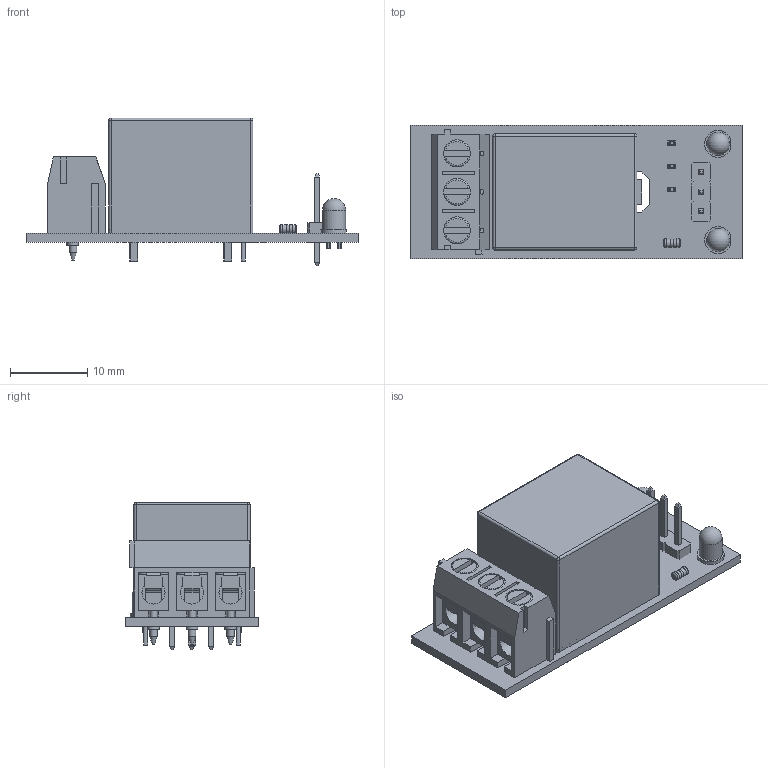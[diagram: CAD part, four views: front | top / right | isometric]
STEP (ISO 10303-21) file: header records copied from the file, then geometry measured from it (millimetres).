
FILE_DESCRIPTION(/* description */ (''),/* implementation_level */ '2;1');
FILE_NAME(/* name */ '00195982_MB00-Relais 1-fach.stp',/* time_stamp */ '2022-10-11T13:09:24+02:00',/* author */ (''),/* organization */ ('POETTINGER Landtechnik GmbH'),/* preprocessor_version */ 'ST-DEVELOPER v18.102',/* originating_system */ 'SIEMENS PLM Software NX 2027',/* authorisation */ '');
FILE_SCHEMA (('AUTOMOTIVE_DESIGN { 1 0 10303 214 3 1 1 1 }'));
Length unit declared in the file: millimetre
Products named in the file (1): MB00_objects
Bounding box: 43.1 x 17.3 x 19.18 mm (x, y, z)
Volume: 5182.8 mm3; surface area: 5591.2 mm2
Topology: 20 solids, 30 shells, 666 faces, 1671 edges, 1074 vertices
Faces by surface type: plane 482, cylinder 151, torus 13, cone 12, sphere 6, bspline 2
Full cylindrical faces by diameter (mm): 0.6 x3, 1 x3, 1.025 x1, 1.1 x2, 1.524 x3, 2 x3, 2.5 x3, 2.75 x3, 3 x5, 3.5 x6
Entity records: 20385 total; most frequent: CARTESIAN_POINT 4304, DIRECTION 3240, ORIENTED_EDGE 3170, EDGE_CURVE 1588, LINE 1232, VECTOR 1232, VERTEX_POINT 1052, AXIS2_PLACEMENT_3D 1004
